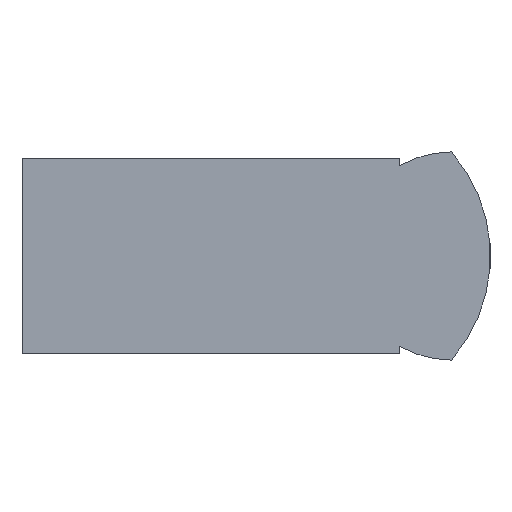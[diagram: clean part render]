
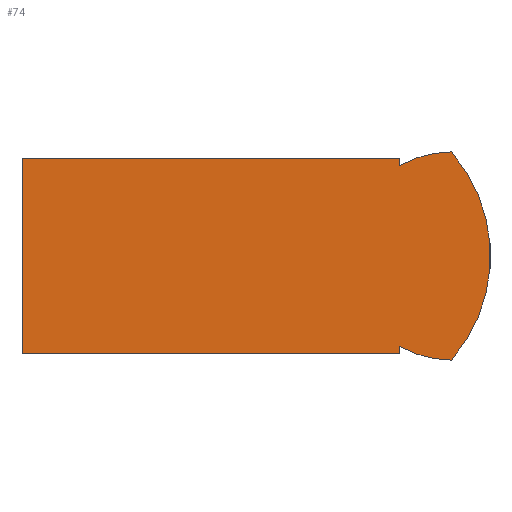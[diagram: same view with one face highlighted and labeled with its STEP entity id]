
A CAD part, left-side view. The second image highlights one B-rep face of the part: STEP entity #74.
In plain terms, the highlighted planar face has unit normal (-1, 0, 0).
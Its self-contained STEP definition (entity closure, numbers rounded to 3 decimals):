
#74 = ADVANCED_FACE( '', ( #163 ), #164, .F. );
#163 = FACE_OUTER_BOUND( '', #268, .T. );
#164 = PLANE( '', #269 );
#268 = EDGE_LOOP( '', ( #426, #427, #428, #429, #430, #431, #432, #433 ) );
#269 = AXIS2_PLACEMENT_3D( '', #434, #435, #436 );
#426 = ORIENTED_EDGE( '', *, *, #600, .F. );
#427 = ORIENTED_EDGE( '', *, *, #640, .T. );
#428 = ORIENTED_EDGE( '', *, *, #614, .T. );
#429 = ORIENTED_EDGE( '', *, *, #641, .F. );
#430 = ORIENTED_EDGE( '', *, *, #627, .F. );
#431 = ORIENTED_EDGE( '', *, *, #634, .T. );
#432 = ORIENTED_EDGE( '', *, *, #596, .F. );
#433 = ORIENTED_EDGE( '', *, *, #642, .F. );
#434 = CARTESIAN_POINT( '', ( -6., -28.416, 0. ) );
#435 = DIRECTION( '', ( 1., 0., 0. ) );
#436 = DIRECTION( '', ( 0., 0., -1. ) );
#596 = EDGE_CURVE( '', #697, #699, #700, .T. );
#600 = EDGE_CURVE( '', #705, #707, #708, .T. );
#614 = EDGE_CURVE( '', #733, #730, #734, .T. );
#627 = EDGE_CURVE( '', #754, #750, #756, .T. );
#634 = EDGE_CURVE( '', #754, #699, #765, .T. );
#640 = EDGE_CURVE( '', #705, #733, #772, .T. );
#641 = EDGE_CURVE( '', #750, #730, #773, .T. );
#642 = EDGE_CURVE( '', #707, #697, #774, .T. );
#697 = VERTEX_POINT( '', #843 );
#699 = VERTEX_POINT( '', #846 );
#700 = CIRCLE( '', #847, 8. );
#705 = VERTEX_POINT( '', #853 );
#707 = VERTEX_POINT( '', #856 );
#708 = CIRCLE( '', #857, 8. );
#730 = VERTEX_POINT( '', #884 );
#733 = VERTEX_POINT( '', #888 );
#734 = LINE( '', #889, #890 );
#750 = VERTEX_POINT( '', #913 );
#754 = VERTEX_POINT( '', #919 );
#756 = LINE( '', #922, #923 );
#765 = LINE( '', #936, #937 );
#772 = LINE( '', #947, #948 );
#773 = LINE( '', #949, #950 );
#774 = CIRCLE( '', #951, 12.167 );
#843 = CARTESIAN_POINT( '', ( -6., -33., -8. ) );
#846 = CARTESIAN_POINT( '', ( -6., -29., -6.928 ) );
#847 = AXIS2_PLACEMENT_3D( '', #1027, #1028, #1029 );
#853 = CARTESIAN_POINT( '', ( -6., -29., 6.928 ) );
#856 = CARTESIAN_POINT( '', ( -6., -33., 8. ) );
#857 = AXIS2_PLACEMENT_3D( '', #1035, #1036, #1037 );
#884 = CARTESIAN_POINT( '', ( -6., 0., 7.5 ) );
#888 = CARTESIAN_POINT( '', ( -6., -29., 7.5 ) );
#889 = CARTESIAN_POINT( '', ( -6., -29., 7.5 ) );
#890 = VECTOR( '', #1059, 1000. );
#913 = CARTESIAN_POINT( '', ( -6., 0., -7.5 ) );
#919 = CARTESIAN_POINT( '', ( -6., -29., -7.5 ) );
#922 = CARTESIAN_POINT( '', ( -6., -29., -7.5 ) );
#923 = VECTOR( '', #1070, 1000. );
#936 = CARTESIAN_POINT( '', ( -6., -29., -7.5 ) );
#937 = VECTOR( '', #1075, 1000. );
#947 = CARTESIAN_POINT( '', ( -6., -29., -7.5 ) );
#948 = VECTOR( '', #1079, 1000. );
#949 = CARTESIAN_POINT( '', ( -6., 0., -7.5 ) );
#950 = VECTOR( '', #1080, 1000. );
#951 = AXIS2_PLACEMENT_3D( '', #1081, #1082, #1083 );
#1027 = CARTESIAN_POINT( '', ( -6., -33., 0. ) );
#1028 = DIRECTION( '', ( 1., 0., 0. ) );
#1029 = DIRECTION( '', ( 0., 0., -1. ) );
#1035 = CARTESIAN_POINT( '', ( -6., -33., 0. ) );
#1036 = DIRECTION( '', ( 1., 0., 0. ) );
#1037 = DIRECTION( '', ( 0., 0., -1. ) );
#1059 = DIRECTION( '', ( 0., 1., 0. ) );
#1070 = DIRECTION( '', ( 0., 1., 0. ) );
#1075 = DIRECTION( '', ( 0., 0., 1. ) );
#1079 = DIRECTION( '', ( 0., 0., 1. ) );
#1080 = DIRECTION( '', ( 0., 0., 1. ) );
#1081 = CARTESIAN_POINT( '', ( -6., -23.833, 0. ) );
#1082 = DIRECTION( '', ( 1., 0., 0. ) );
#1083 = DIRECTION( '', ( 0., 0., -1. ) );
